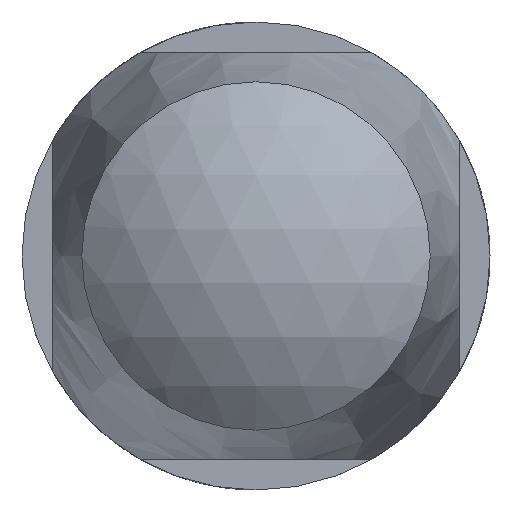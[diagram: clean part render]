
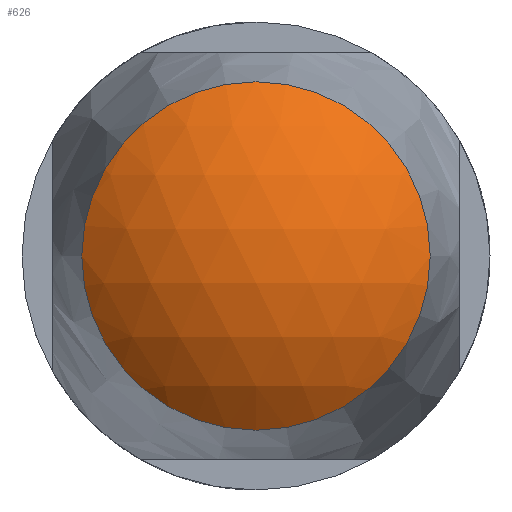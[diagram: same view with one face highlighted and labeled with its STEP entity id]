
A CAD part, front view. The second image highlights one B-rep face of the part: STEP entity #626.
In plain terms, the highlighted spherical face has radius 3.798 mm.
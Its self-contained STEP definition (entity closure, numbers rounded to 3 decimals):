
#19=SPHERICAL_SURFACE('',#689,3.798);
#214=FACE_OUTER_BOUND('',#265,.T.);
#265=EDGE_LOOP('',(#579));
#288=CIRCLE('',#690,2.568);
#345=VERTEX_POINT('',#1251);
#426=EDGE_CURVE('',#345,#345,#288,.T.);
#579=ORIENTED_EDGE('',*,*,#426,.F.);
#626=ADVANCED_FACE('',(#214),#19,.T.);
#689=AXIS2_PLACEMENT_3D('',#1250,#853,#854);
#690=AXIS2_PLACEMENT_3D('',#1252,#855,#856);
#853=DIRECTION('center_axis',(0.,0.,1.));
#854=DIRECTION('ref_axis',(1.,0.,0.));
#855=DIRECTION('center_axis',(0.,1.,0.));
#856=DIRECTION('ref_axis',(-1.,0.,0.));
#1250=CARTESIAN_POINT('Origin',(0.,-20.202,0.));
#1251=CARTESIAN_POINT('',(-2.568,-23.,0.));
#1252=CARTESIAN_POINT('Origin',(0.,-23.,0.));
